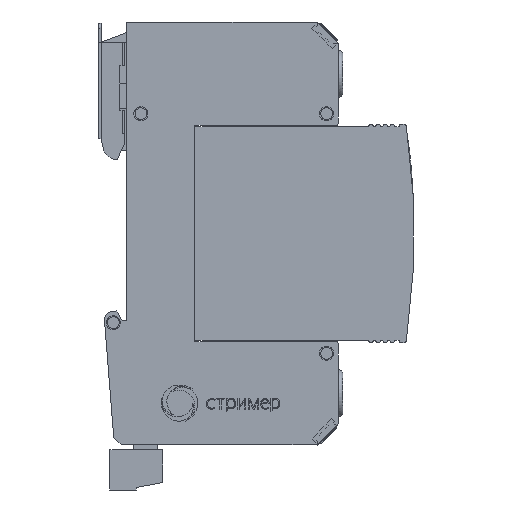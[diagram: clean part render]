
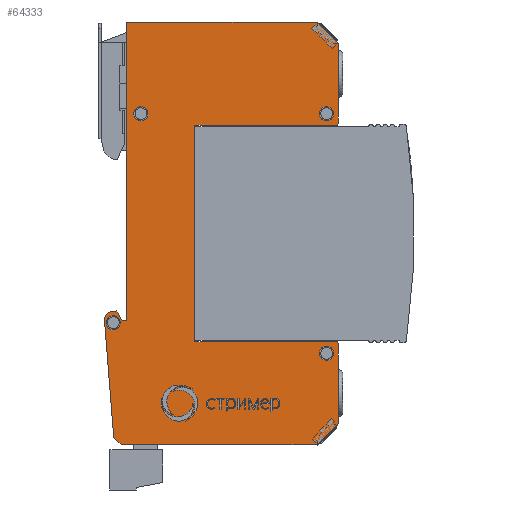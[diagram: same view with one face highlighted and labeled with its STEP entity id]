
A CAD part, front view. The second image highlights one B-rep face of the part: STEP entity #64333.
In plain terms, the highlighted planar face has unit normal (0, -1, 0).
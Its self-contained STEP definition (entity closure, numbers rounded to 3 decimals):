
#62643=CARTESIAN_POINT('',(-14.5,-18.,45.));
#62644=VERTEX_POINT('',#62643);
#62651=CARTESIAN_POINT('',(26.,-18.,45.));
#62652=VERTEX_POINT('',#62651);
#62653=CARTESIAN_POINT('',(-14.5,-18.,45.));
#62654=DIRECTION('',(1.,-0.,-0.));
#62655=VECTOR('',#62654,40.5);
#62656=LINE('',#62653,#62655);
#62657=EDGE_CURVE('',#62644,#62652,#62656,.T.);
#63281=CARTESIAN_POINT('',(-14.5,-18.,-18.5));
#63282=VERTEX_POINT('',#63281);
#63289=CARTESIAN_POINT('',(-14.5,-18.,-18.5));
#63290=DIRECTION('',(-0.,-0.,1.));
#63291=VECTOR('',#63290,63.5);
#63292=LINE('',#63289,#63291);
#63293=EDGE_CURVE('',#63282,#62644,#63292,.T.);
#63488=CARTESIAN_POINT('',(-15.5,-18.,-45.));
#63489=VERTEX_POINT('',#63488);
#63496=CARTESIAN_POINT('',(-17.29,-18.,-43.498));
#63497=VERTEX_POINT('',#63496);
#63498=CARTESIAN_POINT('',(-15.5,-18.,-45.));
#63499=DIRECTION('',(-0.766,-0.,0.643));
#63500=VECTOR('',#63499,2.337);
#63501=LINE('',#63498,#63500);
#63502=EDGE_CURVE('',#63489,#63497,#63501,.T.);
#63527=CARTESIAN_POINT('',(-19.273,-18.,-18.306));
#63528=VERTEX_POINT('',#63527);
#63529=CARTESIAN_POINT('',(-17.29,-18.,-43.498));
#63530=DIRECTION('',(-0.078,-0.,0.997));
#63531=VECTOR('',#63530,25.27);
#63532=LINE('',#63529,#63531);
#63533=EDGE_CURVE('',#63497,#63528,#63532,.T.);
#63559=CARTESIAN_POINT('',(-17.999,-18.,-16.704));
#63560=VERTEX_POINT('',#63559);
#63561=CARTESIAN_POINT('',(-17.777,-18.,-18.188));
#63562=DIRECTION('',(0.,1.,0.));
#63563=DIRECTION('',(0.,-0.,1.));
#63564=AXIS2_PLACEMENT_3D('',#63561,#63562,#63563);
#63565=CIRCLE('',#63564,1.5);
#63566=EDGE_CURVE('',#63528,#63560,#63565,.T.);
#63591=CARTESIAN_POINT('',(-16.632,-18.,-16.5));
#63592=VERTEX_POINT('',#63591);
#63593=CARTESIAN_POINT('',(-17.999,-18.,-16.704));
#63594=DIRECTION('',(0.989,-0.,0.148));
#63595=VECTOR('',#63594,1.383);
#63596=LINE('',#63593,#63595);
#63597=EDGE_CURVE('',#63560,#63592,#63596,.T.);
#63622=CARTESIAN_POINT('',(-15.5,-18.,-18.5));
#63623=VERTEX_POINT('',#63622);
#63624=CARTESIAN_POINT('',(-16.632,-18.,-16.5));
#63625=DIRECTION('',(0.492,0.,-0.87));
#63626=VECTOR('',#63625,2.298);
#63627=LINE('',#63624,#63626);
#63628=EDGE_CURVE('',#63592,#63623,#63627,.T.);
#63651=CARTESIAN_POINT('',(-15.5,-18.,-18.5));
#63652=DIRECTION('',(1.,-0.,-0.));
#63653=VECTOR('',#63652,1.);
#63654=LINE('',#63651,#63653);
#63655=EDGE_CURVE('',#63623,#63282,#63654,.T.);
#63675=CARTESIAN_POINT('',(30.5,-18.,40.5));
#63676=VERTEX_POINT('',#63675);
#63677=CARTESIAN_POINT('',(26.,-18.,45.));
#63678=DIRECTION('',(0.707,0.,-0.707));
#63679=VECTOR('',#63678,6.364);
#63680=LINE('',#63677,#63679);
#63681=EDGE_CURVE('',#62652,#63676,#63680,.T.);
#63726=CARTESIAN_POINT('',(30.5,-18.,23.5));
#63727=VERTEX_POINT('',#63726);
#63728=CARTESIAN_POINT('',(30.5,-18.,40.5));
#63729=DIRECTION('',(-0.,0.,-1.));
#63730=VECTOR('',#63729,17.);
#63731=LINE('',#63728,#63730);
#63732=EDGE_CURVE('',#63676,#63727,#63731,.T.);
#63758=CARTESIAN_POINT('',(30.,-18.,23.));
#63759=VERTEX_POINT('',#63758);
#63760=CARTESIAN_POINT('',(30.,-18.,23.5));
#63761=DIRECTION('',(0.,1.,0.));
#63762=DIRECTION('',(0.,-0.,1.));
#63763=AXIS2_PLACEMENT_3D('',#63760,#63761,#63762);
#63764=CIRCLE('',#63763,0.5);
#63765=EDGE_CURVE('',#63727,#63759,#63764,.T.);
#63790=CARTESIAN_POINT('',(0.,-18.,23.));
#63791=VERTEX_POINT('',#63790);
#63792=CARTESIAN_POINT('',(30.,-18.,23.));
#63793=DIRECTION('',(-1.,-0.,-0.));
#63794=VECTOR('',#63793,30.);
#63795=LINE('',#63792,#63794);
#63796=EDGE_CURVE('',#63759,#63791,#63795,.T.);
#63821=CARTESIAN_POINT('',(0.,-18.,-23.));
#63822=VERTEX_POINT('',#63821);
#63823=CARTESIAN_POINT('',(0.,-18.,23.));
#63824=DIRECTION('',(-0.,0.,-1.));
#63825=VECTOR('',#63824,46.);
#63826=LINE('',#63823,#63825);
#63827=EDGE_CURVE('',#63791,#63822,#63826,.T.);
#63852=CARTESIAN_POINT('',(30.,-18.,-23.));
#63853=VERTEX_POINT('',#63852);
#63854=CARTESIAN_POINT('',(0.,-18.,-23.));
#63855=DIRECTION('',(1.,-0.,-0.));
#63856=VECTOR('',#63855,30.);
#63857=LINE('',#63854,#63856);
#63858=EDGE_CURVE('',#63822,#63853,#63857,.T.);
#63884=CARTESIAN_POINT('',(30.5,-18.,-23.5));
#63885=VERTEX_POINT('',#63884);
#63886=CARTESIAN_POINT('',(30.,-18.,-23.5));
#63887=DIRECTION('',(0.,1.,0.));
#63888=DIRECTION('',(0.,-0.,1.));
#63889=AXIS2_PLACEMENT_3D('',#63886,#63887,#63888);
#63890=CIRCLE('',#63889,0.5);
#63891=EDGE_CURVE('',#63853,#63885,#63890,.T.);
#63936=CARTESIAN_POINT('',(30.5,-18.,-40.5));
#63937=VERTEX_POINT('',#63936);
#63938=CARTESIAN_POINT('',(30.5,-18.,-23.5));
#63939=DIRECTION('',(-0.,0.,-1.));
#63940=VECTOR('',#63939,17.);
#63941=LINE('',#63938,#63940);
#63942=EDGE_CURVE('',#63885,#63937,#63941,.T.);
#63967=CARTESIAN_POINT('',(26.,-18.,-45.));
#63968=VERTEX_POINT('',#63967);
#63969=CARTESIAN_POINT('',(30.5,-18.,-40.5));
#63970=DIRECTION('',(-0.707,0.,-0.707));
#63971=VECTOR('',#63970,6.364);
#63972=LINE('',#63969,#63971);
#63973=EDGE_CURVE('',#63937,#63968,#63972,.T.);
#63989=CARTESIAN_POINT('',(-17.38,-18.,-17.5));
#63990=VERTEX_POINT('',#63989);
#63991=CARTESIAN_POINT('',(-18.88,-18.,-19.));
#63992=VERTEX_POINT('',#63991);
#63993=CARTESIAN_POINT('',(-17.38,-18.,-19.));
#63994=DIRECTION('',(0.,1.,0.));
#63995=DIRECTION('',(0.,-0.,1.));
#63996=AXIS2_PLACEMENT_3D('',#63993,#63994,#63995);
#63997=CIRCLE('',#63996,1.5);
#63998=EDGE_CURVE('',#63990,#63992,#63997,.T.);
#64000=CARTESIAN_POINT('',(-17.38,-18.,-19.));
#64001=DIRECTION('',(0.,1.,0.));
#64002=DIRECTION('',(0.,-0.,1.));
#64003=AXIS2_PLACEMENT_3D('',#64000,#64001,#64002);
#64004=CIRCLE('',#64003,1.5);
#64005=EDGE_CURVE('',#63992,#63990,#64004,.T.);
#64035=CARTESIAN_POINT('',(28.,-18.,-24.));
#64036=VERTEX_POINT('',#64035);
#64037=CARTESIAN_POINT('',(26.5,-18.,-25.5));
#64038=VERTEX_POINT('',#64037);
#64039=CARTESIAN_POINT('',(28.,-18.,-25.5));
#64040=DIRECTION('',(0.,1.,0.));
#64041=DIRECTION('',(0.,-0.,1.));
#64042=AXIS2_PLACEMENT_3D('',#64039,#64040,#64041);
#64043=CIRCLE('',#64042,1.5);
#64044=EDGE_CURVE('',#64036,#64038,#64043,.T.);
#64046=CARTESIAN_POINT('',(28.,-18.,-25.5));
#64047=DIRECTION('',(0.,1.,0.));
#64048=DIRECTION('',(0.,-0.,1.));
#64049=AXIS2_PLACEMENT_3D('',#64046,#64047,#64048);
#64050=CIRCLE('',#64049,1.5);
#64051=EDGE_CURVE('',#64038,#64036,#64050,.T.);
#64081=CARTESIAN_POINT('',(-11.5,-18.,27.));
#64082=VERTEX_POINT('',#64081);
#64083=CARTESIAN_POINT('',(-13.,-18.,25.5));
#64084=VERTEX_POINT('',#64083);
#64085=CARTESIAN_POINT('',(-11.5,-18.,25.5));
#64086=DIRECTION('',(0.,1.,0.));
#64087=DIRECTION('',(0.,-0.,1.));
#64088=AXIS2_PLACEMENT_3D('',#64085,#64086,#64087);
#64089=CIRCLE('',#64088,1.5);
#64090=EDGE_CURVE('',#64082,#64084,#64089,.T.);
#64092=CARTESIAN_POINT('',(-11.5,-18.,25.5));
#64093=DIRECTION('',(0.,1.,0.));
#64094=DIRECTION('',(0.,-0.,1.));
#64095=AXIS2_PLACEMENT_3D('',#64092,#64093,#64094);
#64096=CIRCLE('',#64095,1.5);
#64097=EDGE_CURVE('',#64084,#64082,#64096,.T.);
#64127=CARTESIAN_POINT('',(28.,-18.,27.));
#64128=VERTEX_POINT('',#64127);
#64129=CARTESIAN_POINT('',(26.5,-18.,25.5));
#64130=VERTEX_POINT('',#64129);
#64131=CARTESIAN_POINT('',(28.,-18.,25.5));
#64132=DIRECTION('',(0.,1.,0.));
#64133=DIRECTION('',(0.,-0.,1.));
#64134=AXIS2_PLACEMENT_3D('',#64131,#64132,#64133);
#64135=CIRCLE('',#64134,1.5);
#64136=EDGE_CURVE('',#64128,#64130,#64135,.T.);
#64138=CARTESIAN_POINT('',(28.,-18.,25.5));
#64139=DIRECTION('',(0.,1.,0.));
#64140=DIRECTION('',(0.,-0.,1.));
#64141=AXIS2_PLACEMENT_3D('',#64138,#64139,#64140);
#64142=CIRCLE('',#64141,1.5);
#64143=EDGE_CURVE('',#64130,#64128,#64142,.T.);
#64282=CARTESIAN_POINT('',(26.,-18.,-45.));
#64283=DIRECTION('',(-1.,-0.,-0.));
#64284=VECTOR('',#64283,41.5);
#64285=LINE('',#64282,#64284);
#64286=EDGE_CURVE('',#63968,#63489,#64285,.T.);
#64292=CARTESIAN_POINT('',(0.,-18.,-0.));
#64293=DIRECTION('',(0.,1.,0.));
#64294=DIRECTION('',(0.,0.,-1.));
#64295=AXIS2_PLACEMENT_3D('',#64292,#64293,#64294);
#64296=PLANE('',#64295);
#64297=ORIENTED_EDGE('',*,*,#64143,.T.);
#64298=ORIENTED_EDGE('',*,*,#64136,.T.);
#64299=EDGE_LOOP('',(#64297,#64298));
#64300=FACE_BOUND('',#64299,.T.);
#64301=ORIENTED_EDGE('',*,*,#64097,.T.);
#64302=ORIENTED_EDGE('',*,*,#64090,.T.);
#64303=EDGE_LOOP('',(#64301,#64302));
#64304=FACE_BOUND('',#64303,.T.);
#64305=ORIENTED_EDGE('',*,*,#64051,.T.);
#64306=ORIENTED_EDGE('',*,*,#64044,.T.);
#64307=EDGE_LOOP('',(#64305,#64306));
#64308=FACE_BOUND('',#64307,.T.);
#64309=ORIENTED_EDGE('',*,*,#64005,.T.);
#64310=ORIENTED_EDGE('',*,*,#63998,.T.);
#64311=EDGE_LOOP('',(#64309,#64310));
#64312=FACE_BOUND('',#64311,.T.);
#64313=ORIENTED_EDGE('',*,*,#63502,.F.);
#64314=ORIENTED_EDGE('',*,*,#64286,.F.);
#64315=ORIENTED_EDGE('',*,*,#63973,.F.);
#64316=ORIENTED_EDGE('',*,*,#63942,.F.);
#64317=ORIENTED_EDGE('',*,*,#63891,.F.);
#64318=ORIENTED_EDGE('',*,*,#63858,.F.);
#64319=ORIENTED_EDGE('',*,*,#63827,.F.);
#64320=ORIENTED_EDGE('',*,*,#63796,.F.);
#64321=ORIENTED_EDGE('',*,*,#63765,.F.);
#64322=ORIENTED_EDGE('',*,*,#63732,.F.);
#64323=ORIENTED_EDGE('',*,*,#63681,.F.);
#64324=ORIENTED_EDGE('',*,*,#62657,.F.);
#64325=ORIENTED_EDGE('',*,*,#63293,.F.);
#64326=ORIENTED_EDGE('',*,*,#63655,.F.);
#64327=ORIENTED_EDGE('',*,*,#63628,.F.);
#64328=ORIENTED_EDGE('',*,*,#63597,.F.);
#64329=ORIENTED_EDGE('',*,*,#63566,.F.);
#64330=ORIENTED_EDGE('',*,*,#63533,.F.);
#64331=EDGE_LOOP('',(#64313,#64314,#64315,#64316,#64317,#64318,#64319,#64320,#64321,#64322,#64323,#64324,#64325,#64326,#64327,#64328,#64329,#64330));
#64332=FACE_BOUND('',#64331,.T.);
#64333=ADVANCED_FACE('',(#64300,#64304,#64308,#64312,#64332),#64296,.F.);
